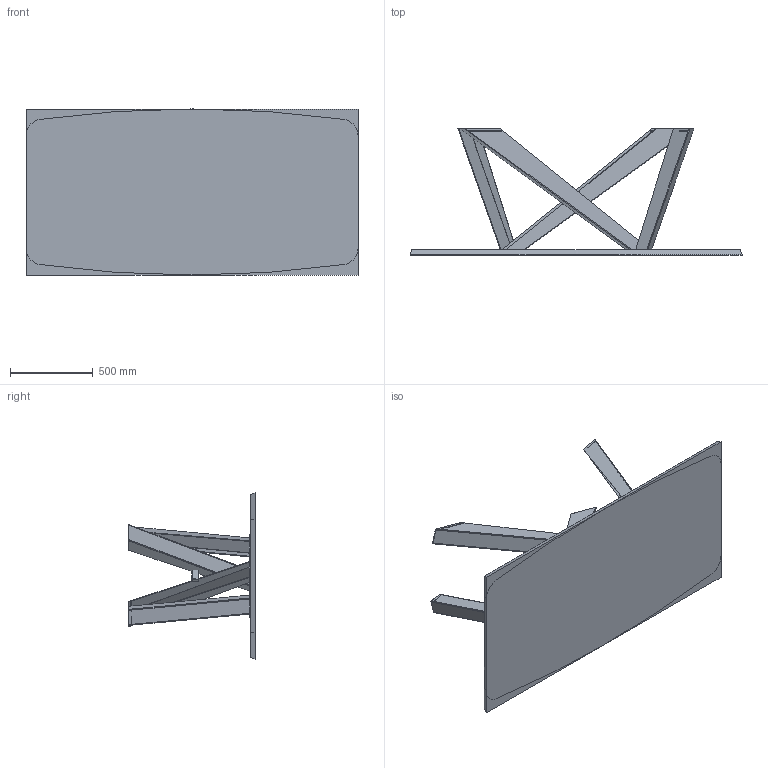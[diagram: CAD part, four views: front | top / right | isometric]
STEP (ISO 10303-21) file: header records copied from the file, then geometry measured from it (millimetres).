
FILE_DESCRIPTION(/* description */ ('Unknown'),/* implementation_level */ '2;1');
FILE_NAME(/* name */ 'Stół SRD 002',/* time_stamp */ '2024-05-13T12:09:56+02:00',/* author */ ('Unknown'),/* organization */ ('Unknown'),/* preprocessor_version */ 'ST-DEVELOPER v18.104',/* originating_system */ 'Solid Edge',/* authorisation */ 'Unknown');
FILE_SCHEMA (('AUTOMOTIVE_DESIGN {1 0 10303 214 3 1 1}'));
Length unit declared in the file: millimetre
Products named in the file (13): St馧 SRD 002; Noga B; Noga AB1; Podstawa nogi kolory B; Stopa Nogi B; Noga A; Podstawa nogi kolory A; Stopa Nogi A; Blat 28.04.2023; Blat 28.04.2024; Ko³ek M6; Usztywnienie
Assembly tree (39 placements, depth 3):
  St馧 SRD 002
    Noga B  x2
      Noga AB1
      Podstawa nogi kolory B
      Stopa Nogi B
    Noga A  x2
      Podstawa nogi kolory A
      Noga A
      Stopa Nogi A
    Blat 28.04.2023
    Blat 28.04.2024
    Ko³ek M6  x26
    Usztywnienie
Bounding box: 2000 x 760.12 x 1000.45 mm (x, y, z)
Volume: 120792142.1 mm3; surface area: 10889758 mm2
Topology: 41 solids, 41 shells, 706 faces, 1790 edges, 1192 vertices
Faces by surface type: plane 364, cylinder 230, cone 112
Full cylindrical faces by diameter (mm): 4.917 x26, 6.1 x2, 6.647 x4, 8 x26, 8.917 x4, 10 x52, 12 x26, 15 x26
Entity records: 10229 total; most frequent: DIRECTION 1659, CARTESIAN_POINT 1608, ORIENTED_EDGE 1362, EDGE_CURVE 681, AXIS2_PLACEMENT_3D 603, FACE_BOUND 579, VERTEX_POINT 552, EDGE_LOOP 525
